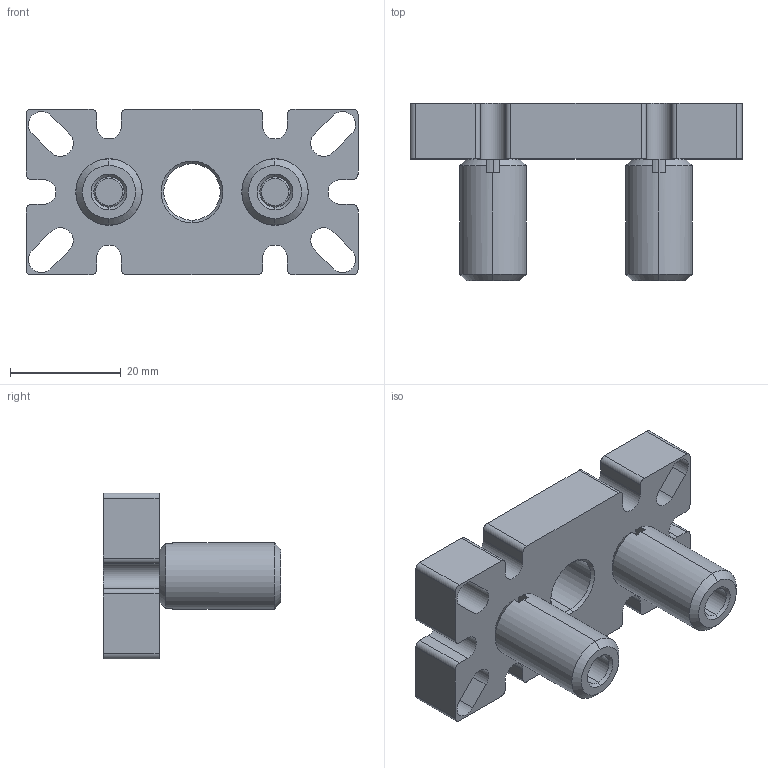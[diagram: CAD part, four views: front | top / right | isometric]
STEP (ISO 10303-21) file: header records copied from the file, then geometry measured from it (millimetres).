
FILE_DESCRIPTION (( 'STEP AP214' ), '1' );
FILE_NAME ('SNSD.30.50.60. Àäàïòåð 30õ60 äëÿ êðåïëåíèÿ îïîðû Ì12(B14).STEP', '2014-11-22T12:26:57', ( 'Dmitriy' ), ( '' ), 'SwSTEP 2.0', 'SolidWorks 2014', '' );
FILE_SCHEMA (( 'AUTOMOTIVE_DESIGN' ));
Length unit declared in the file: millimetre
Products named in the file (4): SNSD.30.50.60. Àäàïòåð 30õ60 äëÿ êðåïëåíèÿ îïîðû Ì12(B14); SNSD.30.50.27. Âòóëêà ðåçüáîâàÿ Ì12 - Ì6(D09)_00; SNSD.30.50.60. 鍔錓(B14)_00; SNSD.30.50.60. Ïëàñòèíà(B14)À32_00
Assembly tree (5 placements, depth 2):
  SNSD.30.50.60. Àäàïòåð 30õ60 äëÿ êðåïëåíèÿ îïîðû Ì12(B14)
    SNSD.30.50.60. Ïëàñòèíà(B14)À32_00
    SNSD.30.50.60. 鍔錓(B14)_00  x2
    SNSD.30.50.27. Âòóëêà ðåçüáîâàÿ Ì12 - Ì6(D09)_00  x2
Bounding box: 60 x 32.1 x 30 mm (x, y, z)
Volume: 18574.4 mm3; surface area: 11092.2 mm2
Topology: 5 solids, 5 shells, 166 faces, 432 edges, 280 vertices
Faces by surface type: plane 72, cylinder 62, cone 28, torus 4
Entity records: 4230 total; most frequent: DIRECTION 728, CARTESIAN_POINT 709, ORIENTED_EDGE 668, EDGE_CURVE 334, AXIS2_PLACEMENT_3D 269, VERTEX_POINT 218, VECTOR 190, LINE 190
